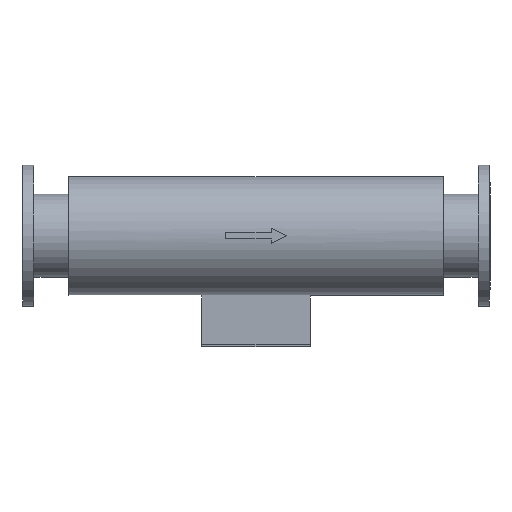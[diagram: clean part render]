
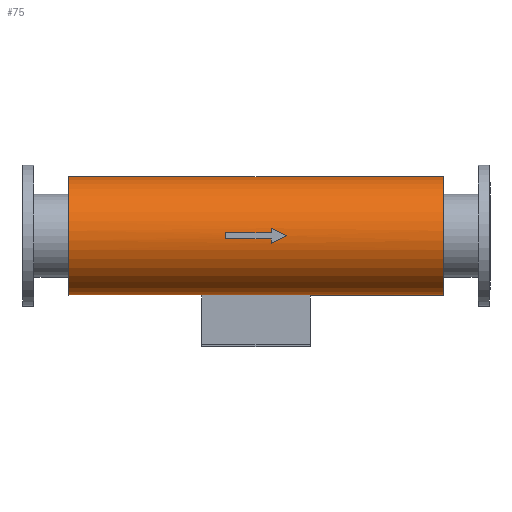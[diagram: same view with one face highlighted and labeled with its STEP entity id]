
A CAD part, front view. The second image highlights one B-rep face of the part: STEP entity #75.
In plain terms, the highlighted cylindrical face has radius 117.55 mm (diameter 235.1 mm), a partial arc.
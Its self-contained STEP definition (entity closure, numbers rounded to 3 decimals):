
#75=ADVANCED_FACE('',(#532,#533,#534),#531,.T.);
#531=CYLINDRICAL_SURFACE('',#1340,117.55);
#532=FACE_OUTER_BOUND('',#1341,.T.);
#533=FACE_BOUND('',#1342,.T.);
#534=FACE_BOUND('',#1343,.T.);
#1337=CARTESIAN_POINT('',(628.,0.,0.));
#1338=DIRECTION('',(1.,0.,0.));
#1339=DIRECTION('',(0.,0.009,1.));
#1340=AXIS2_PLACEMENT_3D('',#1337,#1338,#1339);
#1341=EDGE_LOOP('',(#1862,#1863,#1864,#1865,#1866,#1867));
#1342=EDGE_LOOP('',(#1868,#1869,#1870,#1871,#1872,#1873,#1874));
#1343=EDGE_LOOP('',(#1875,#1876,#1877,#1878));
#1862=ORIENTED_EDGE('',*,*,#2128,.T.);
#1863=ORIENTED_EDGE('',*,*,#2130,.T.);
#1864=ORIENTED_EDGE('',*,*,#2298,.F.);
#1865=ORIENTED_EDGE('',*,*,#2293,.F.);
#1866=ORIENTED_EDGE('',*,*,#2295,.F.);
#1867=ORIENTED_EDGE('',*,*,#2299,.T.);
#1868=ORIENTED_EDGE('',*,*,#2272,.F.);
#1869=ORIENTED_EDGE('',*,*,#2288,.F.);
#1870=ORIENTED_EDGE('',*,*,#2276,.F.);
#1871=ORIENTED_EDGE('',*,*,#2125,.F.);
#1872=ORIENTED_EDGE('',*,*,#2279,.F.);
#1873=ORIENTED_EDGE('',*,*,#2281,.F.);
#1874=ORIENTED_EDGE('',*,*,#2286,.F.);
#1875=ORIENTED_EDGE('',*,*,#2225,.T.);
#1876=ORIENTED_EDGE('',*,*,#2221,.T.);
#1877=ORIENTED_EDGE('',*,*,#2235,.T.);
#1878=ORIENTED_EDGE('',*,*,#2232,.T.);
#2125=EDGE_CURVE('',#2425,#2432,#2433,.T.);
#2128=EDGE_CURVE('',#2452,#2453,#2454,.T.);
#2130=EDGE_CURVE('',#2453,#2460,#2467,.T.);
#2221=EDGE_CURVE('',#3103,#3104,#3105,.T.);
#2225=EDGE_CURVE('',#3131,#3103,#3132,.T.);
#2232=EDGE_CURVE('',#3179,#3131,#3180,.T.);
#2235=EDGE_CURVE('',#3104,#3179,#3199,.T.);
#2272=EDGE_CURVE('',#3443,#3450,#3451,.T.);
#2276=EDGE_CURVE('',#2432,#3476,#3477,.T.);
#2279=EDGE_CURVE('',#3489,#2425,#3496,.T.);
#2281=EDGE_CURVE('',#3502,#3489,#3509,.T.);
#2286=EDGE_CURVE('',#3450,#3502,#3541,.T.);
#2288=EDGE_CURVE('',#3476,#3443,#3553,.T.);
#2293=EDGE_CURVE('',#3587,#3588,#3589,.T.);
#2295=EDGE_CURVE('',#3595,#3587,#3602,.T.);
#2298=EDGE_CURVE('',#3588,#2460,#3622,.T.);
#2299=EDGE_CURVE('',#3595,#2452,#3628,.T.);
#2425=VERTEX_POINT('',#4010);
#2432=VERTEX_POINT('',#4014);
#2433=(BOUNDED_CURVE() B_SPLINE_CURVE(2,(#4015,#4016,#4017),.UNSPECIFIED.,.F.,.F.) B_SPLINE_CURVE_WITH_KNOTS((3,3),(-4.84,-4.712),.UNSPECIFIED.) CURVE() GEOMETRIC_REPRESENTATION_ITEM() RATIONAL_B_SPLINE_CURVE((1.,0.998,1.)) REPRESENTATION_ITEM('') );
#2452=VERTEX_POINT('',#4025);
#2453=VERTEX_POINT('',#4026);
#2454=CIRCLE('',#4030,117.55);
#2460=VERTEX_POINT('',#4031);
#2467=CIRCLE('',#4039,117.55);
#3103=VERTEX_POINT('',#4490);
#3104=VERTEX_POINT('',#4491);
#3105=LINE('',#4492,#4493);
#3131=VERTEX_POINT('',#4506);
#3132=CIRCLE('',#4510,117.55);
#3179=VERTEX_POINT('',#4534);
#3180=LINE('',#4535,#4536);
#3199=CIRCLE('',#4548,117.55);
#3443=VERTEX_POINT('',#4698);
#3450=VERTEX_POINT('',#4702);
#3451=LINE('',#4703,#4704);
#3476=VERTEX_POINT('',#4717);
#3477=(BOUNDED_CURVE() B_SPLINE_CURVE(2,(#4718,#4719,#4720),.UNSPECIFIED.,.F.,.F.) B_SPLINE_CURVE_WITH_KNOTS((3,3),(-1.571,-1.443),.UNSPECIFIED.) CURVE() GEOMETRIC_REPRESENTATION_ITEM() RATIONAL_B_SPLINE_CURVE((1.,0.998,1.)) REPRESENTATION_ITEM('') );
#3489=VERTEX_POINT('',#4724);
#3496=CIRCLE('',#4731,117.55);
#3502=VERTEX_POINT('',#4732);
#3509=LINE('',#4736,#4737);
#3541=CIRCLE('',#4757,117.55);
#3553=CIRCLE('',#4764,117.55);
#3587=VERTEX_POINT('',#4785);
#3588=VERTEX_POINT('',#4786);
#3589=CIRCLE('',#4790,117.55);
#3595=VERTEX_POINT('',#4791);
#3602=CIRCLE('',#4799,117.55);
#3622=(BOUNDED_CURVE() B_SPLINE_CURVE(1,(#4810,#4811),.UNSPECIFIED.,.F.,.F.) B_SPLINE_CURVE_WITH_KNOTS((2,2),(0.013,0.987),.UNSPECIFIED.) CURVE() GEOMETRIC_REPRESENTATION_ITEM() RATIONAL_B_SPLINE_CURVE((1.,1.)) REPRESENTATION_ITEM('') );
#3628=(BOUNDED_CURVE() B_SPLINE_CURVE(1,(#4812,#4813),.UNSPECIFIED.,.F.,.F.) B_SPLINE_CURVE_WITH_KNOTS((2,2),(0.013,0.987),.UNSPECIFIED.) CURVE() GEOMETRIC_REPRESENTATION_ITEM() RATIONAL_B_SPLINE_CURVE((0.884,0.884)) REPRESENTATION_ITEM('') );
#4010=CARTESIAN_POINT('',(30.,-116.589,-15.));
#4014=CARTESIAN_POINT('',(60.,-117.55,0.));
#4015=CARTESIAN_POINT('',(30.,-116.589,-15.));
#4016=CARTESIAN_POINT('',(44.938,-117.55,-7.531));
#4017=CARTESIAN_POINT('',(60.,-117.55,0.));
#4025=CARTESIAN_POINT('',(372.,83.584,-82.654));
#4026=CARTESIAN_POINT('',(372.,0.,-117.55));
#4027=CARTESIAN_POINT('',(372.,0.,0.));
#4028=DIRECTION('',(-1.,0.,0.));
#4029=DIRECTION('',(0.,0.,-1.));
#4030=AXIS2_PLACEMENT_3D('',#4027,#4028,#4029);
#4031=CARTESIAN_POINT('',(372.,1.026,117.546));
#4036=CARTESIAN_POINT('',(372.,0.,0.));
#4037=DIRECTION('',(-1.,0.,0.));
#4038=DIRECTION('',(0.,0.,-1.));
#4039=AXIS2_PLACEMENT_3D('',#4036,#4037,#4038);
#4490=CARTESIAN_POINT('',(107.5,4.5,-117.464));
#4491=CARTESIAN_POINT('',(-107.5,4.5,-117.464));
#4492=CARTESIAN_POINT('',(107.5,4.5,-117.464));
#4493=VECTOR('',#4494,215.);
#4494=DIRECTION('',(-1.,0.,0.));
#4506=CARTESIAN_POINT('',(107.5,-4.5,-117.464));
#4507=CARTESIAN_POINT('',(107.5,0.,0.));
#4508=DIRECTION('',(1.,0.,0.));
#4509=DIRECTION('',(0.,0.038,-0.999));
#4510=AXIS2_PLACEMENT_3D('',#4507,#4508,#4509);
#4534=CARTESIAN_POINT('',(-107.5,-4.5,-117.464));
#4535=CARTESIAN_POINT('',(-107.5,-4.5,-117.464));
#4536=VECTOR('',#4537,215.);
#4537=DIRECTION('',(1.,0.,0.));
#4545=CARTESIAN_POINT('',(-107.5,0.,0.));
#4546=DIRECTION('',(-1.,0.,0.));
#4547=DIRECTION('',(0.,0.,1.));
#4548=AXIS2_PLACEMENT_3D('',#4545,#4546,#4547);
#4698=CARTESIAN_POINT('',(30.,-117.397,6.));
#4702=CARTESIAN_POINT('',(-60.,-117.397,6.));
#4703=CARTESIAN_POINT('',(30.,-117.397,6.));
#4704=VECTOR('',#4705,90.);
#4705=DIRECTION('',(-1.,0.,0.));
#4717=CARTESIAN_POINT('',(30.,-116.589,15.));
#4718=CARTESIAN_POINT('',(60.,-117.55,0.));
#4719=CARTESIAN_POINT('',(44.938,-117.55,7.531));
#4720=CARTESIAN_POINT('',(30.,-116.589,15.));
#4724=CARTESIAN_POINT('',(30.,-117.397,-6.));
#4728=CARTESIAN_POINT('',(30.,0.,0.));
#4729=DIRECTION('',(1.,0.,0.));
#4730=DIRECTION('',(0.,0.,-1.));
#4731=AXIS2_PLACEMENT_3D('',#4728,#4729,#4730);
#4732=CARTESIAN_POINT('',(-60.,-117.397,-6.));
#4736=CARTESIAN_POINT('',(-60.,-117.397,-6.));
#4737=VECTOR('',#4738,90.);
#4738=DIRECTION('',(1.,0.,0.));
#4754=CARTESIAN_POINT('',(-60.,0.,0.));
#4755=DIRECTION('',(1.,0.,0.));
#4756=DIRECTION('',(0.,0.,-1.));
#4757=AXIS2_PLACEMENT_3D('',#4754,#4755,#4756);
#4761=CARTESIAN_POINT('',(30.,0.,0.));
#4762=DIRECTION('',(1.,0.,0.));
#4763=DIRECTION('',(0.,0.,-1.));
#4764=AXIS2_PLACEMENT_3D('',#4761,#4762,#4763);
#4785=CARTESIAN_POINT('',(-372.,0.,-117.55));
#4786=CARTESIAN_POINT('',(-372.,1.026,117.546));
#4787=CARTESIAN_POINT('',(-372.,0.,0.));
#4788=DIRECTION('',(-1.,0.,0.));
#4789=DIRECTION('',(0.,0.,-1.));
#4790=AXIS2_PLACEMENT_3D('',#4787,#4788,#4789);
#4791=CARTESIAN_POINT('',(-372.,83.584,-82.654));
#4796=CARTESIAN_POINT('',(-372.,0.,0.));
#4797=DIRECTION('',(-1.,0.,0.));
#4798=DIRECTION('',(0.,0.,-1.));
#4799=AXIS2_PLACEMENT_3D('',#4796,#4797,#4798);
#4810=CARTESIAN_POINT('',(-372.,1.026,117.546));
#4811=CARTESIAN_POINT('',(372.,1.026,117.546));
#4812=CARTESIAN_POINT('',(-372.,83.584,-82.654));
#4813=CARTESIAN_POINT('',(372.,83.584,-82.654));
